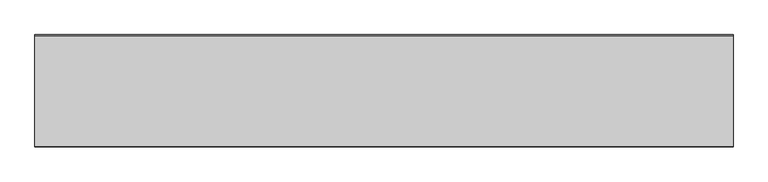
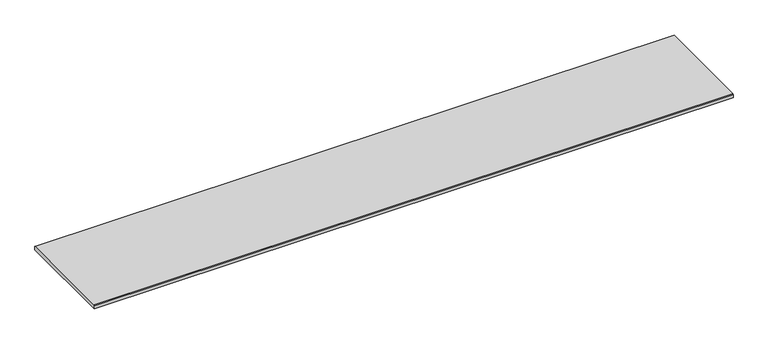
"""IFC4 building model written with IfcOpenShell, lengths in millimetres: proxy geometry."""

from ifc_helpers import new_model, si_unit, frame, origin, place, context, project, spatial, polyline, outline, extrude, source, transform, mapped, element, save


def generic_models_2b3267b2(model_context):
    return source(origin(), model_context, "Body", "SweptSolid", [
        extrude(outline(polyline([(0.0, 13.629936), (2.245064, 15.875), (390.692936, 15.875), (392.938, 13.629936), (392.938, 0.0), (0.0, 0.0), (0.0, 13.629936)])), frame((0.0, 0.0, 0.0), z_axis=(1.0, 0.0, 0.0), x_axis=(0.0, 1.0, 0.0)), (0.0, 0.0, 1.0), 2438.4),
    ])


if __name__ == "__main__":
    model = new_model("IFC4")
    model_context = context("Model", 3, world=origin())
    ifc_project = project(units=[si_unit("LENGTHUNIT", "METRE", prefix="MILLI")], contexts=[model_context])
    site = spatial("IfcSite", under=ifc_project)
    building = spatial("IfcBuilding", under=site)
    placement = place(None, origin())
    generic_models_shape = generic_models_2b3267b2(model_context)
    element("IfcBuildingElementProxy", 1, Name="440 Series Reversible Trim (Fiber) : 440 Series Reversible Trim (Fiber) - 15.47\"", ObjectType="440 Series Reversible Trim (Fiber) : 440 Series Reversible Trim (Fiber) - 15.47\"", at=placement, inside=building, context=model_context, shape_type="MappedRepresentation", body=[
        mapped(generic_models_shape, transform((0.0, 0.0, 0.0), x_axis=(1.0, 0.0, 0.0), y_axis=(0.0, 1.0, 0.0), z_axis=(0.0, 0.0, 1.0))),
    ])
    save(model, "model.ifc")
